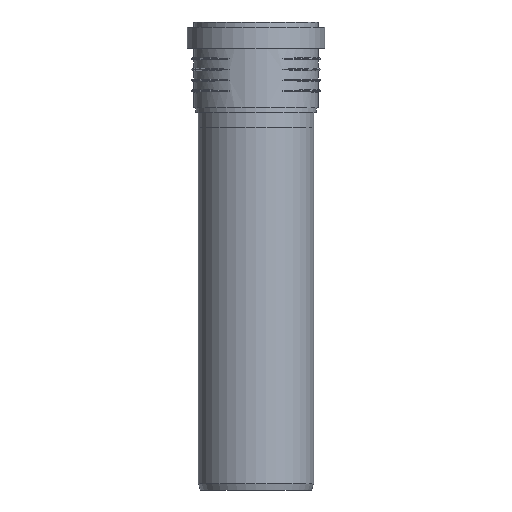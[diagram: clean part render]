
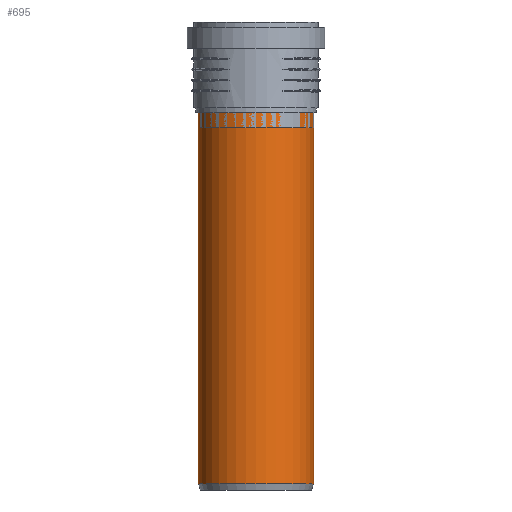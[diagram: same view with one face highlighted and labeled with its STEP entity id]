
A CAD part, left-side view. The second image highlights one B-rep face of the part: STEP entity #695.
In plain terms, the highlighted cylindrical face has radius 37.6 mm (diameter 75.2 mm), a full revolution.
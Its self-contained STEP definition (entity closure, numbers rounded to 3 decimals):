
#94=CYLINDRICAL_SURFACE($,#750,37.6);
#118=FACE_BOUND($,#198,.T.);
#153=FACE_OUTER_BOUND($,#197,.T.);
#197=EDGE_LOOP($,(#472));
#198=EDGE_LOOP($,(#473));
#272=CIRCLE($,#747,37.6);
#274=CIRCLE($,#751,37.6);
#311=VERTEX_POINT($,#1021);
#313=VERTEX_POINT($,#1027);
#382=EDGE_CURVE($,#311,#311,#272,.T.);
#384=EDGE_CURVE($,#313,#313,#274,.T.);
#472=ORIENTED_EDGE($,*,*,#384,.T.);
#473=ORIENTED_EDGE($,*,*,#382,.F.);
#695=ADVANCED_FACE($,(#153,#118),#94,.T.);
#747=AXIS2_PLACEMENT_3D($,#1022,#841,#842);
#750=AXIS2_PLACEMENT_3D($,#1026,#847,#848);
#751=AXIS2_PLACEMENT_3D($,#1028,#849,#850);
#841=DIRECTION('center_axis',(0.,0.,-1.));
#842=DIRECTION('ref_axis',(-1.,0.,0.));
#847=DIRECTION('center_axis',(0.,0.,1.));
#848=DIRECTION('ref_axis',(-1.,0.,0.));
#849=DIRECTION('center_axis',(0.,0.,-1.));
#850=DIRECTION('ref_axis',(-1.,0.,0.));
#1021=CARTESIAN_POINT('',(37.6,0.,-119.25));
#1022=CARTESIAN_POINT('Origin',(0.,0.,-119.25));
#1026=CARTESIAN_POINT('Origin',(0.,0.,0.));
#1027=CARTESIAN_POINT('',(37.6,0.,123.25));
#1028=CARTESIAN_POINT('Origin',(0.,0.,123.25));
